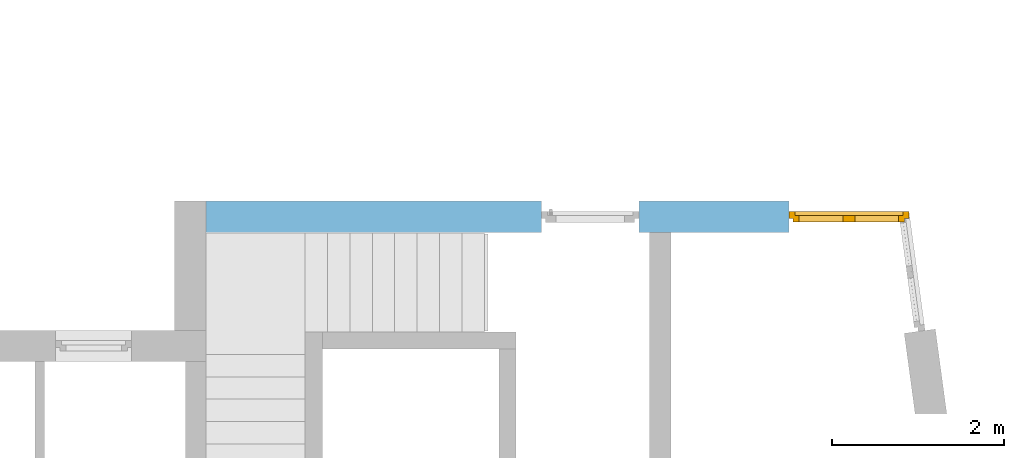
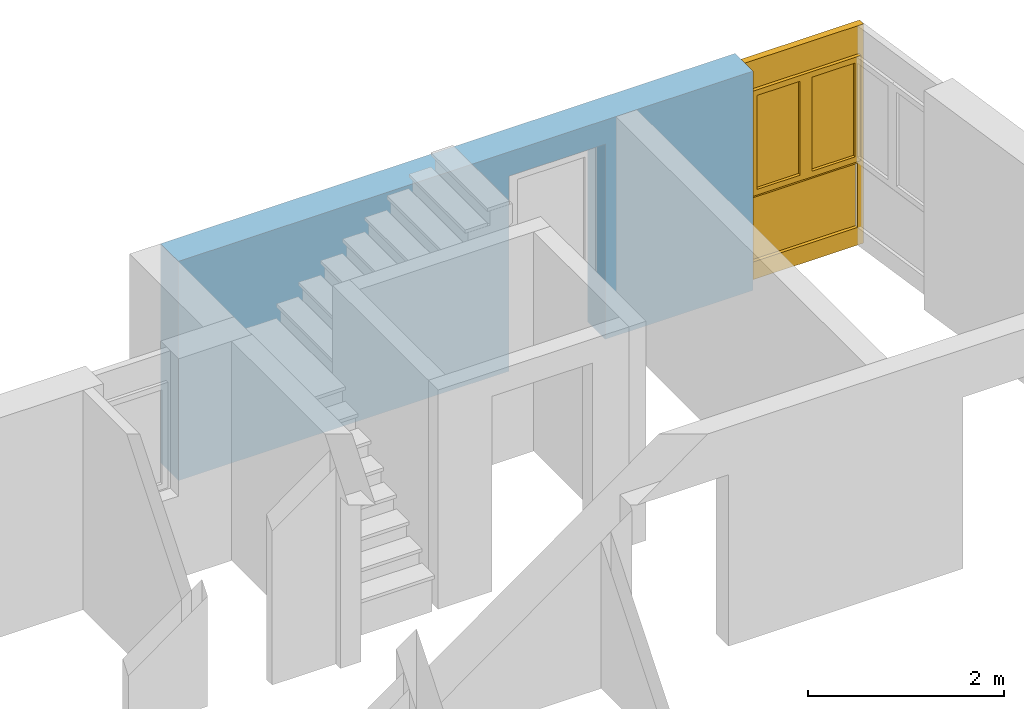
# One storey, part 38 of 41: 1 window, 2 openings, plus 1 element that does not belong to this part.
"""IFC2X3 building model written with IfcOpenShell, lengths in millimetres."""

from ifc_helpers import new_model, entity, si_unit, converted_unit, frame, frame_2d, origin, origin_with_axes, place, context, subcontext, project, spatial, polyline, rectangle, outline, extrude, faceted_brep, material, layer, layer_set, layer_usage, type_object, element, fill, save


model = new_model("IFC2X3")

# Units and contexts
model_context = context("Model", 3, precision=1e-05, world=origin())
body_context = subcontext(model_context, "Body", "Model", "MODEL_VIEW")
ifc_project = project(units=[si_unit("LENGTHUNIT", "METRE", prefix="MILLI"), converted_unit("PLANEANGLEUNIT", "DEGREE", entity("IfcPlaneAngleMeasure", 0.0174532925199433), si_unit("PLANEANGLEUNIT", "RADIAN"), dimensions=[0, 0, 0, 0, 0, 0, 0]), si_unit("AREAUNIT", "SQUARE_METRE"), si_unit("VOLUMEUNIT", "CUBIC_METRE")], contexts=[model_context])

# Building, storey
building_placement = place(None, origin())
building = spatial("IfcBuilding", under=ifc_project, at=building_placement, Name="Gebäude", CompositionType="ELEMENT")
storey_placement = place(building_placement, frame((0.0, 0.0, -200.0), z_axis=(0.0, 0.0, 1.0), x_axis=(1.0, 0.0, 0.0)))
storey = spatial("IfcBuildingStorey", under=building, at=storey_placement, Name="EG.- Grundriss", CompositionType="ELEMENT", Elevation=-200.0)

# Wall, openings, window
ifc_material_1 = material(Name="Poroton")
ifc_layer = layer(ifc_material_1, 365.0000000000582)
ifc_layer_set = layer_set([ifc_layer])
ifc_layer_usage = layer_usage(ifc_layer_set, "AXIS2", "POSITIVE", 0.0)
wall_placement = place(storey_placement, frame((184136.2065758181, 136274.8877324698, 0.0), z_axis=(0.0, 0.0, 1.0), x_axis=(-1.0, 0.0, 0.0)))
wall = element("IfcWallStandardCase", 1, at=wall_placement, inside=storey, material=ifc_layer_usage, Name="<Unnamed Element>", context=body_context, shape_type="SweptSolid", body=[
    extrude(outline(polyline([(0.0, 0.0), (7898.413769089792, 0.0), (7898.413769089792, 365.0000000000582), (-49.37204599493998, 365.0000000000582), (0.0, 0.0)])), origin_with_axes(), (0.0, 0.0, 1.0), 2730.0),
])
opening_1_placement = place(wall_placement, frame((-368.3240406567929, 0.0, 0.0), z_axis=(0.0, 1.0, 0.0), x_axis=(0.0, 0.0, 1.0)))
opening_1 = element("IfcOpeningElement", 2, at=opening_1_placement, cuts=wall, Name="Fensteröffnung", ObjectType="Opening", context=body_context, shape_type="Brep", body=[
    faceted_brep([(0.0, 160.6382545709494, 1535.389315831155), (0.0, -201.0677034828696, 1486.462841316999), (0.0, 0.0, 0.0), (0.0, 1500.0, 0.0), (0.0, 1500.0, 365.0000000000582), (0.0, 318.951994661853, 365.0000000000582), (2730.0, -201.0677034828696, 1486.462841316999), (2730.0, 160.6382545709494, 1535.389315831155), (2730.0, 318.951994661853, 365.0000000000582), (2730.0, 1500.0, 365.0000000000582), (2730.0, 1500.0, 0.0), (2730.0, 0.0, 0.0), (0.0, 1500.0, 0.0), (0.0, 0.0, 0.0), (2730.0, 0.0, 0.0), (2730.0, 1500.0, 0.0), (0.0, 1500.0, 365.0000000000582), (0.0, 1500.0, 0.0), (2730.0, 1500.0, 0.0), (2730.0, 1500.0, 365.0000000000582), (0.0, 318.951994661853, 365.0000000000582), (0.0, 1500.0, 365.0000000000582), (2730.0, 1500.0, 365.0000000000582), (2730.0, 318.951994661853, 365.0000000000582), (0.0, -201.0677034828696, 1486.462841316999), (0.0, 160.6382545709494, 1535.389315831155), (2730.0, 160.6382545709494, 1535.389315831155), (2730.0, -201.0677034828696, 1486.462841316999), (0.0, 0.0, 0.0), (0.0, -201.0677034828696, 1486.462841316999), (2730.0, -201.0677034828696, 1486.462841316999), (2730.0, 0.0, 0.0), (0.0, 160.6382545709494, 1535.389315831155), (0.0, 318.951994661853, 365.0000000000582), (2730.0, 318.951994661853, 365.0000000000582), (2730.0, 160.6382545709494, 1535.389315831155)], [[[0, 1, 2, 3, 4, 5]], [[6, 7, 8, 9, 10, 11]], [[12, 13, 14, 15]], [[16, 17, 18, 19]], [[20, 21, 22, 23]], [[24, 25, 26, 27]], [[28, 29, 30, 31]], [[32, 33, 34, 35]]], orient=[[False], [False], [False], [False], [False], [False], [False], [False]]),
])
opening_2_placement = place(wall_placement, frame((2871.675959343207, 0.0, 0.0), z_axis=(0.0, 1.0, 0.0), x_axis=(0.0, 0.0, 1.0)))
element("IfcOpeningElement", 3, at=opening_2_placement, cuts=wall, Name="Türöffnung", ObjectType="Opening", context=body_context, shape_type="SweptSolid", body=[
    extrude(rectangle(XDim=2430.0, YDim=1135.0, at=frame_2d((1215.0, 567.5), x_axis=(1.0, 0.0))), origin_with_axes(), (0.0, 0.0, 1.0), 365.0000000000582),
])
ifc_material_2 = material()
window_style = type_object("IfcWindowStyle", Name="Fenster", ConstructionType="NOTDEFINED", OperationType="USERDEFINED", ParameterTakesPrecedence=False, Sizeable=False)
window_placement = place(opening_1_placement, frame((0.0, 0.0, 0.0), z_axis=(1.0, 0.0, 0.0), x_axis=(0.0, 1.0, 0.0)))
window = element("IfcWindow", 4, at=window_placement, inside=storey, type_object=window_style, material=ifc_material_2, Name="Fenster", OverallHeight=2730.0, OverallWidth=1340.52, context=body_context, shape_type="Brep", body=[
    faceted_brep([(104.8609297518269, 200.0000000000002, 2730.0), (104.8609297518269, 200.0, -2.449293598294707e-15), (174.8609297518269, 200.0, -2.449293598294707e-15), (174.8609297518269, 200.0000000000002, 2730.0), (104.8609297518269, 120.0, 2.449293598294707e-15), (104.8609297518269, 120.0000000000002, 2730.0), (174.8609297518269, 120.0000000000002, 2730.0), (174.8609297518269, 120.0, 2.449293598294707e-15), (104.8609297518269, 200.0, -2.449293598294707e-15), (104.8609297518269, 200.0000000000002, 2730.0), (104.8609297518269, 120.0000000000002, 2730.0), (104.8609297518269, 120.0, 2.449293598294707e-15), (174.8609297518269, 200.0, -2.449293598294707e-15), (104.8609297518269, 200.0, -2.449293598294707e-15), (104.8609297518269, 120.0, 2.449293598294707e-15), (174.8609297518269, 120.0, 2.449293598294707e-15), (174.8609297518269, 200.0000000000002, 2730.0), (174.8609297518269, 200.0, -2.449293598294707e-15), (174.8609297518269, 120.0, 2.449293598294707e-15), (174.8609297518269, 120.0000000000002, 2730.0), (104.8609297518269, 200.0000000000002, 2730.0), (174.8609297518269, 200.0000000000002, 2730.0), (174.8609297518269, 120.0000000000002, 2730.0), (104.8609297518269, 120.0000000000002, 2730.0)], [[[0, 1, 2, 3]], [[4, 5, 6, 7]], [[8, 9, 10, 11]], [[12, 13, 14, 15]], [[16, 17, 18, 19]], [[20, 21, 22, 23]]], orient=[[False], [False], [False], [False], [False], [False]]),
    faceted_brep([(1430.000000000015, 200.0, 2730.0), (1430.000000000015, 199.9999999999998, -2.449293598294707e-15), (1500.000000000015, 199.9999999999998, -2.449293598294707e-15), (1500.000000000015, 200.0, 2730.0), (1430.000000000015, 119.9999999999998, 2.449293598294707e-15), (1430.000000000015, 120.0, 2730.0), (1500.000000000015, 120.0, 2730.0), (1500.000000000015, 119.9999999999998, 2.449293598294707e-15), (1430.000000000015, 199.9999999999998, -2.449293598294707e-15), (1430.000000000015, 200.0, 2730.0), (1430.000000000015, 120.0, 2730.0), (1430.000000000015, 119.9999999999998, 2.449293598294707e-15), (1500.000000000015, 199.9999999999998, -2.449293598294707e-15), (1430.000000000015, 199.9999999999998, -2.449293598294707e-15), (1430.000000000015, 119.9999999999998, 2.449293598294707e-15), (1500.000000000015, 119.9999999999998, 2.449293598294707e-15), (1500.000000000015, 200.0, 2730.0), (1500.000000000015, 199.9999999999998, -2.449293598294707e-15), (1500.000000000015, 119.9999999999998, 2.449293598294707e-15), (1500.000000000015, 120.0, 2730.0), (1430.000000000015, 200.0, 2730.0), (1500.000000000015, 200.0, 2730.0), (1500.000000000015, 120.0, 2730.0), (1430.000000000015, 120.0, 2730.0)], [[[0, 1, 2, 3]], [[4, 5, 6, 7]], [[8, 9, 10, 11]], [[12, 13, 14, 15]], [[16, 17, 18, 19]], [[20, 21, 22, 23]]], orient=[[False], [False], [False], [False], [False], [False]]),
    faceted_brep([(174.8609297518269, 200.0, 220.0), (174.8609297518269, 200.0, -2.449293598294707e-15), (1430.000000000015, 199.9999999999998, -2.449293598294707e-15), (1430.000000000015, 199.9999999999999, 220.0), (174.8609297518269, 120.0, 2.449293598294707e-15), (174.8609297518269, 120.0, 220.0), (1430.000000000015, 119.9999999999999, 220.0), (1430.000000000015, 119.9999999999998, 2.449293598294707e-15), (174.8609297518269, 200.0, -2.449293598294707e-15), (174.8609297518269, 200.0, 220.0), (174.8609297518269, 120.0, 220.0), (174.8609297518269, 120.0, 2.449293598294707e-15), (1430.000000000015, 199.9999999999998, -2.449293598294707e-15), (174.8609297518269, 200.0, -2.449293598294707e-15), (174.8609297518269, 120.0, 2.449293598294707e-15), (1430.000000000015, 119.9999999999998, 2.449293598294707e-15), (1430.000000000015, 199.9999999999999, 220.0), (1430.000000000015, 199.9999999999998, -2.449293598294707e-15), (1430.000000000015, 119.9999999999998, 2.449293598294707e-15), (1430.000000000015, 119.9999999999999, 220.0), (174.8609297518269, 200.0, 220.0), (1430.000000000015, 199.9999999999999, 220.0), (1430.000000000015, 119.9999999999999, 220.0), (174.8609297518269, 120.0, 220.0)], [[[0, 1, 2, 3]], [[4, 5, 6, 7]], [[8, 9, 10, 11]], [[12, 13, 14, 15]], [[16, 17, 18, 19]], [[20, 21, 22, 23]]], orient=[[False], [False], [False], [False], [False], [False]]),
    faceted_brep([(174.8609297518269, 200.0000000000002, 2730.0), (174.8609297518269, 200.0000000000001, 2360.0), (1430.000000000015, 200.0, 2360.0), (1430.000000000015, 200.0, 2730.0), (174.8609297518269, 120.0000000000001, 2360.0), (174.8609297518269, 120.0000000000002, 2730.0), (1430.000000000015, 120.0, 2730.0), (1430.000000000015, 120.0, 2360.0), (174.8609297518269, 200.0000000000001, 2360.0), (174.8609297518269, 200.0000000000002, 2730.0), (174.8609297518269, 120.0000000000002, 2730.0), (174.8609297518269, 120.0000000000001, 2360.0), (1430.000000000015, 200.0, 2360.0), (174.8609297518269, 200.0000000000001, 2360.0), (174.8609297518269, 120.0000000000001, 2360.0), (1430.000000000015, 120.0, 2360.0), (1430.000000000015, 200.0, 2730.0), (1430.000000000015, 200.0, 2360.0), (1430.000000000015, 120.0, 2360.0), (1430.000000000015, 120.0, 2730.0), (174.8609297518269, 200.0000000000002, 2730.0), (1430.000000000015, 200.0, 2730.0), (1430.000000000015, 120.0, 2730.0), (174.8609297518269, 120.0000000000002, 2730.0)], [[[0, 1, 2, 3]], [[4, 5, 6, 7]], [[8, 9, 10, 11]], [[12, 13, 14, 15]], [[16, 17, 18, 19]], [[20, 21, 22, 23]]], orient=[[False], [False], [False], [False], [False], [False]]),
    faceted_brep([(174.8609297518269, 200.0000000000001, 1090.0), (174.8609297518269, 200.0000000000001, 1020.0), (1430.000000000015, 199.9999999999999, 1020.0), (1430.000000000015, 199.9999999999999, 1090.0), (174.8609297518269, 120.0, 1020.0), (174.8609297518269, 120.0, 1090.0), (1430.000000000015, 119.9999999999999, 1090.0), (1430.000000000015, 119.9999999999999, 1020.0), (174.8609297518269, 200.0000000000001, 1020.0), (174.8609297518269, 200.0000000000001, 1090.0), (174.8609297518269, 120.0, 1090.0), (174.8609297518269, 120.0, 1020.0), (1430.000000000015, 199.9999999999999, 1020.0), (174.8609297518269, 200.0000000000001, 1020.0), (174.8609297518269, 120.0, 1020.0), (1430.000000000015, 119.9999999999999, 1020.0), (1430.000000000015, 199.9999999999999, 1090.0), (1430.000000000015, 199.9999999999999, 1020.0), (1430.000000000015, 119.9999999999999, 1020.0), (1430.000000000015, 119.9999999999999, 1090.0), (174.8609297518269, 200.0000000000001, 1090.0), (1430.000000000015, 199.9999999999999, 1090.0), (1430.000000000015, 119.9999999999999, 1090.0), (174.8609297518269, 120.0, 1090.0)], [[[0, 1, 2, 3]], [[4, 5, 6, 7]], [[8, 9, 10, 11]], [[12, 13, 14, 15]], [[16, 17, 18, 19]], [[20, 21, 22, 23]]], orient=[[False], [False], [False], [False], [False], [False]]),
    faceted_brep([(174.8609297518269, 160.0, 220.0), (1430.000000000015, 159.9999999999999, 220.0), (1430.000000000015, 159.9999999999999, 1020.0), (174.8609297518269, 160.0000000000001, 1020.0), (174.8609297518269, 159.0, 220.0), (174.8609297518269, 159.0000000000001, 1020.0), (1430.000000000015, 158.9999999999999, 1020.0), (1430.000000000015, 158.9999999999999, 220.0), (174.8609297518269, 160.0, 220.0), (174.8609297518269, 159.0, 220.0), (1430.000000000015, 158.9999999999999, 220.0), (1430.000000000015, 159.9999999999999, 220.0), (1430.000000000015, 159.9999999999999, 220.0), (1430.000000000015, 158.9999999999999, 220.0), (1430.000000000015, 158.9999999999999, 1020.0), (1430.000000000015, 159.9999999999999, 1020.0), (1430.000000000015, 159.9999999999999, 1020.0), (1430.000000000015, 158.9999999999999, 1020.0), (174.8609297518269, 159.0000000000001, 1020.0), (174.8609297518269, 160.0000000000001, 1020.0), (174.8609297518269, 160.0000000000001, 1020.0), (174.8609297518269, 159.0000000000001, 1020.0), (174.8609297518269, 159.0, 220.0), (174.8609297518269, 160.0, 220.0)], [[[0, 1, 2, 3]], [[4, 5, 6, 7]], [[8, 9, 10, 11]], [[12, 13, 14, 15]], [[16, 17, 18, 19]], [[20, 21, 22, 23]]], orient=[[False], [False], [False], [False], [False], [False]]),
    faceted_brep([(154.8609297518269, 240.0000000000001, 2380.0), (154.8609297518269, 240.0000000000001, 1070.0), (224.8609297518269, 240.0000000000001, 1070.0), (224.8609297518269, 240.0000000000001, 2380.0), (154.8609297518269, 170.0000000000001, 1070.0), (154.8609297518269, 170.0000000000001, 2380.0), (224.8609297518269, 170.0000000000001, 2380.0), (224.8609297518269, 170.0000000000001, 1070.0), (154.8609297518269, 240.0000000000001, 1070.0), (154.8609297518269, 240.0000000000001, 2380.0), (154.8609297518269, 170.0000000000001, 2380.0), (154.8609297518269, 170.0000000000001, 1070.0), (224.8609297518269, 240.0000000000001, 1070.0), (154.8609297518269, 240.0000000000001, 1070.0), (154.8609297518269, 170.0000000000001, 1070.0), (224.8609297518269, 170.0000000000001, 1070.0), (224.8609297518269, 240.0000000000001, 2380.0), (224.8609297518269, 240.0000000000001, 1070.0), (224.8609297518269, 170.0000000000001, 1070.0), (224.8609297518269, 170.0000000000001, 2380.0), (154.8609297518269, 240.0000000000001, 2380.0), (224.8609297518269, 240.0000000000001, 2380.0), (224.8609297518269, 170.0000000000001, 2380.0), (154.8609297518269, 170.0000000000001, 2380.0)], [[[0, 1, 2, 3]], [[4, 5, 6, 7]], [[8, 9, 10, 11]], [[12, 13, 14, 15]], [[16, 17, 18, 19]], [[20, 21, 22, 23]]], orient=[[False], [False], [False], [False], [False], [False]]),
    faceted_brep([(731.9304648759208, 240.0000000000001, 2380.0), (731.9304648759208, 240.0, 1070.0), (801.9304648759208, 240.0, 1070.0), (801.9304648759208, 240.0000000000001, 2380.0), (731.9304648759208, 170.0, 1070.0), (731.9304648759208, 170.0000000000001, 2380.0), (801.9304648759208, 170.0000000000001, 2380.0), (801.9304648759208, 170.0, 1070.0), (731.9304648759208, 240.0, 1070.0), (731.9304648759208, 240.0000000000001, 2380.0), (731.9304648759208, 170.0000000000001, 2380.0), (731.9304648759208, 170.0, 1070.0), (801.9304648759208, 240.0, 1070.0), (731.9304648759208, 240.0, 1070.0), (731.9304648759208, 170.0, 1070.0), (801.9304648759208, 170.0, 1070.0), (801.9304648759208, 240.0000000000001, 2380.0), (801.9304648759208, 240.0, 1070.0), (801.9304648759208, 170.0, 1070.0), (801.9304648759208, 170.0000000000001, 2380.0), (731.9304648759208, 240.0000000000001, 2380.0), (801.9304648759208, 240.0000000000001, 2380.0), (801.9304648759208, 170.0000000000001, 2380.0), (731.9304648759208, 170.0000000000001, 2380.0)], [[[0, 1, 2, 3]], [[4, 5, 6, 7]], [[8, 9, 10, 11]], [[12, 13, 14, 15]], [[16, 17, 18, 19]], [[20, 21, 22, 23]]], orient=[[False], [False], [False], [False], [False], [False]]),
    faceted_brep([(224.8609297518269, 240.0000000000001, 1140.0), (224.8609297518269, 240.0000000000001, 1070.0), (731.9304648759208, 240.0, 1070.0), (731.9304648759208, 240.0, 1140.0), (224.8609297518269, 170.0000000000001, 1070.0), (224.8609297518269, 170.0000000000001, 1140.0), (731.9304648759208, 170.0, 1140.0), (731.9304648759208, 170.0, 1070.0), (224.8609297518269, 240.0000000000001, 1070.0), (224.8609297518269, 240.0000000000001, 1140.0), (224.8609297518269, 170.0000000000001, 1140.0), (224.8609297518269, 170.0000000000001, 1070.0), (731.9304648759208, 240.0, 1070.0), (224.8609297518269, 240.0000000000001, 1070.0), (224.8609297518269, 170.0000000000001, 1070.0), (731.9304648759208, 170.0, 1070.0), (731.9304648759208, 240.0, 1140.0), (731.9304648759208, 240.0, 1070.0), (731.9304648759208, 170.0, 1070.0), (731.9304648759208, 170.0, 1140.0), (224.8609297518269, 240.0000000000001, 1140.0), (731.9304648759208, 240.0, 1140.0), (731.9304648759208, 170.0, 1140.0), (224.8609297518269, 170.0000000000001, 1140.0)], [[[0, 1, 2, 3]], [[4, 5, 6, 7]], [[8, 9, 10, 11]], [[12, 13, 14, 15]], [[16, 17, 18, 19]], [[20, 21, 22, 23]]], orient=[[False], [False], [False], [False], [False], [False]]),
    faceted_brep([(224.8609297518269, 240.0000000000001, 2380.0), (224.8609297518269, 240.0000000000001, 2310.0), (731.9304648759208, 240.0000000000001, 2310.0), (731.9304648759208, 240.0000000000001, 2380.0), (224.8609297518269, 170.0000000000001, 2310.0), (224.8609297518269, 170.0000000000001, 2380.0), (731.9304648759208, 170.0000000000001, 2380.0), (731.9304648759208, 170.0000000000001, 2310.0), (224.8609297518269, 240.0000000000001, 2310.0), (224.8609297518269, 240.0000000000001, 2380.0), (224.8609297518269, 170.0000000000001, 2380.0), (224.8609297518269, 170.0000000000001, 2310.0), (731.9304648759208, 240.0000000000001, 2310.0), (224.8609297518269, 240.0000000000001, 2310.0), (224.8609297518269, 170.0000000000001, 2310.0), (731.9304648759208, 170.0000000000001, 2310.0), (731.9304648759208, 240.0000000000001, 2380.0), (731.9304648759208, 240.0000000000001, 2310.0), (731.9304648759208, 170.0000000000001, 2310.0), (731.9304648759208, 170.0000000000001, 2380.0), (224.8609297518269, 240.0000000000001, 2380.0), (731.9304648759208, 240.0000000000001, 2380.0), (731.9304648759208, 170.0000000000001, 2380.0), (224.8609297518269, 170.0000000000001, 2380.0)], [[[0, 1, 2, 3]], [[4, 5, 6, 7]], [[8, 9, 10, 11]], [[12, 13, 14, 15]], [[16, 17, 18, 19]], [[20, 21, 22, 23]]], orient=[[False], [False], [False], [False], [False], [False]]),
    faceted_brep([(802.930464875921, 240.0000000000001, 2380.0), (802.930464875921, 240.0, 1070.0), (872.930464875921, 239.9999999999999, 1070.0), (872.930464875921, 240.0000000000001, 2380.0), (802.930464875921, 170.0, 1070.0), (802.930464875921, 170.0000000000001, 2380.0), (872.930464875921, 170.0000000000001, 2380.0), (872.930464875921, 170.0, 1070.0), (802.930464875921, 240.0, 1070.0), (802.930464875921, 240.0000000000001, 2380.0), (802.930464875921, 170.0000000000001, 2380.0), (802.930464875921, 170.0, 1070.0), (872.930464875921, 239.9999999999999, 1070.0), (802.930464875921, 240.0, 1070.0), (802.930464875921, 170.0, 1070.0), (872.930464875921, 170.0, 1070.0), (872.930464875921, 240.0000000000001, 2380.0), (872.930464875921, 239.9999999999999, 1070.0), (872.930464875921, 170.0, 1070.0), (872.930464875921, 170.0000000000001, 2380.0), (802.930464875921, 240.0000000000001, 2380.0), (872.930464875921, 240.0000000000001, 2380.0), (872.930464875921, 170.0000000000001, 2380.0), (802.930464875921, 170.0000000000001, 2380.0)], [[[0, 1, 2, 3]], [[4, 5, 6, 7]], [[8, 9, 10, 11]], [[12, 13, 14, 15]], [[16, 17, 18, 19]], [[20, 21, 22, 23]]], orient=[[False], [False], [False], [False], [False], [False]]),
    faceted_brep([(1380.000000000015, 240.0, 2380.0), (1380.000000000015, 239.9999999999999, 1070.0), (1450.000000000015, 239.9999999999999, 1070.0), (1450.000000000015, 240.0, 2380.0), (1380.000000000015, 169.9999999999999, 1070.0), (1380.000000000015, 170.0, 2380.0), (1450.000000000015, 170.0, 2380.0), (1450.000000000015, 169.9999999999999, 1070.0), (1380.000000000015, 239.9999999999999, 1070.0), (1380.000000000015, 240.0, 2380.0), (1380.000000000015, 170.0, 2380.0), (1380.000000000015, 169.9999999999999, 1070.0), (1450.000000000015, 239.9999999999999, 1070.0), (1380.000000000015, 239.9999999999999, 1070.0), (1380.000000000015, 169.9999999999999, 1070.0), (1450.000000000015, 169.9999999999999, 1070.0), (1450.000000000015, 240.0, 2380.0), (1450.000000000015, 239.9999999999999, 1070.0), (1450.000000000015, 169.9999999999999, 1070.0), (1450.000000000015, 170.0, 2380.0), (1380.000000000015, 240.0, 2380.0), (1450.000000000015, 240.0, 2380.0), (1450.000000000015, 170.0, 2380.0), (1380.000000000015, 170.0, 2380.0)], [[[0, 1, 2, 3]], [[4, 5, 6, 7]], [[8, 9, 10, 11]], [[12, 13, 14, 15]], [[16, 17, 18, 19]], [[20, 21, 22, 23]]], orient=[[False], [False], [False], [False], [False], [False]]),
    faceted_brep([(872.930464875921, 239.9999999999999, 1140.0), (872.930464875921, 239.9999999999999, 1070.0), (1380.000000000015, 239.9999999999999, 1070.0), (1380.000000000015, 239.9999999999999, 1140.0), (872.930464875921, 170.0, 1070.0), (872.930464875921, 170.0, 1140.0), (1380.000000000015, 169.9999999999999, 1140.0), (1380.000000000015, 169.9999999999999, 1070.0), (872.930464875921, 239.9999999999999, 1070.0), (872.930464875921, 239.9999999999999, 1140.0), (872.930464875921, 170.0, 1140.0), (872.930464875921, 170.0, 1070.0), (1380.000000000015, 239.9999999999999, 1070.0), (872.930464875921, 239.9999999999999, 1070.0), (872.930464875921, 170.0, 1070.0), (1380.000000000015, 169.9999999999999, 1070.0), (1380.000000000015, 239.9999999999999, 1140.0), (1380.000000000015, 239.9999999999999, 1070.0), (1380.000000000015, 169.9999999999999, 1070.0), (1380.000000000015, 169.9999999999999, 1140.0), (872.930464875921, 239.9999999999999, 1140.0), (1380.000000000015, 239.9999999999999, 1140.0), (1380.000000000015, 169.9999999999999, 1140.0), (872.930464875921, 170.0, 1140.0)], [[[0, 1, 2, 3]], [[4, 5, 6, 7]], [[8, 9, 10, 11]], [[12, 13, 14, 15]], [[16, 17, 18, 19]], [[20, 21, 22, 23]]], orient=[[False], [False], [False], [False], [False], [False]]),
    faceted_brep([(872.930464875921, 240.0, 2380.0), (872.930464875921, 240.0, 2310.0), (1380.000000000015, 240.0, 2310.0), (1380.000000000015, 240.0, 2380.0), (872.930464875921, 170.0, 2310.0), (872.930464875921, 170.0, 2380.0), (1380.000000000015, 170.0, 2380.0), (1380.000000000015, 170.0, 2310.0), (872.930464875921, 240.0, 2310.0), (872.930464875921, 240.0, 2380.0), (872.930464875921, 170.0, 2380.0), (872.930464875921, 170.0, 2310.0), (1380.000000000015, 240.0, 2310.0), (872.930464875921, 240.0, 2310.0), (872.930464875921, 170.0, 2310.0), (1380.000000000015, 170.0, 2310.0), (1380.000000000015, 240.0, 2380.0), (1380.000000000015, 240.0, 2310.0), (1380.000000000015, 170.0, 2310.0), (1380.000000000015, 170.0, 2380.0), (872.930464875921, 240.0, 2380.0), (1380.000000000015, 240.0, 2380.0), (1380.000000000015, 170.0, 2380.0), (872.930464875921, 170.0, 2380.0)], [[[0, 1, 2, 3]], [[4, 5, 6, 7]], [[8, 9, 10, 11]], [[12, 13, 14, 15]], [[16, 17, 18, 19]], [[20, 21, 22, 23]]], orient=[[False], [False], [False], [False], [False], [False]]),
    faceted_brep([(224.8609297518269, 205.0000000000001, 1140.0), (731.9304648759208, 205.0, 1140.0), (731.9304648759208, 205.0000000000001, 2310.0), (224.8609297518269, 205.0000000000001, 2310.0), (224.8609297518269, 204.0000000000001, 1140.0), (224.8609297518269, 204.0000000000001, 2310.0), (731.9304648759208, 204.0000000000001, 2310.0), (731.9304648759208, 204.0, 1140.0), (224.8609297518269, 205.0000000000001, 1140.0), (224.8609297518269, 204.0000000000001, 1140.0), (731.9304648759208, 204.0, 1140.0), (731.9304648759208, 205.0, 1140.0), (731.9304648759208, 205.0, 1140.0), (731.9304648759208, 204.0, 1140.0), (731.9304648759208, 204.0000000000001, 2310.0), (731.9304648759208, 205.0000000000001, 2310.0), (731.9304648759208, 205.0000000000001, 2310.0), (731.9304648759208, 204.0000000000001, 2310.0), (224.8609297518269, 204.0000000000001, 2310.0), (224.8609297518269, 205.0000000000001, 2310.0), (224.8609297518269, 205.0000000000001, 2310.0), (224.8609297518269, 204.0000000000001, 2310.0), (224.8609297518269, 204.0000000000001, 1140.0), (224.8609297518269, 205.0000000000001, 1140.0)], [[[0, 1, 2, 3]], [[4, 5, 6, 7]], [[8, 9, 10, 11]], [[12, 13, 14, 15]], [[16, 17, 18, 19]], [[20, 21, 22, 23]]], orient=[[False], [False], [False], [False], [False], [False]]),
    faceted_brep([(872.930464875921, 205.0, 1140.0), (1380.000000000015, 204.9999999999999, 1140.0), (1380.000000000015, 205.0, 2310.0), (872.930464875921, 205.0000000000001, 2310.0), (872.930464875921, 204.0, 1140.0), (872.930464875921, 204.0000000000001, 2310.0), (1380.000000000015, 204.0, 2310.0), (1380.000000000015, 203.9999999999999, 1140.0), (872.930464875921, 205.0, 1140.0), (872.930464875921, 204.0, 1140.0), (1380.000000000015, 203.9999999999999, 1140.0), (1380.000000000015, 204.9999999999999, 1140.0), (1380.000000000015, 204.9999999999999, 1140.0), (1380.000000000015, 203.9999999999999, 1140.0), (1380.000000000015, 204.0, 2310.0), (1380.000000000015, 205.0, 2310.0), (1380.000000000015, 205.0, 2310.0), (1380.000000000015, 204.0, 2310.0), (872.930464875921, 204.0000000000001, 2310.0), (872.930464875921, 205.0000000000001, 2310.0), (872.930464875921, 205.0000000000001, 2310.0), (872.930464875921, 204.0000000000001, 2310.0), (872.930464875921, 204.0, 1140.0), (872.930464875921, 205.0, 1140.0)], [[[0, 1, 2, 3]], [[4, 5, 6, 7]], [[8, 9, 10, 11]], [[12, 13, 14, 15]], [[16, 17, 18, 19]], [[20, 21, 22, 23]]], orient=[[False], [False], [False], [False], [False], [False]]),
])
fill(opening_1, window)

save(model, "model.ifc")
